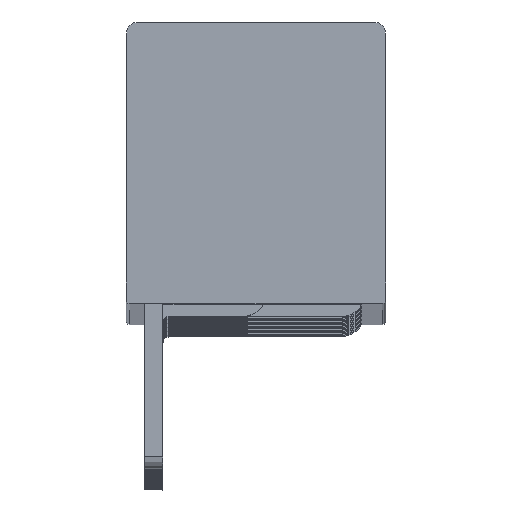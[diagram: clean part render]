
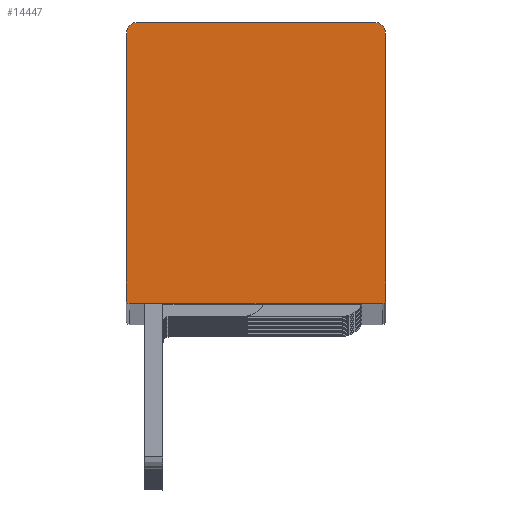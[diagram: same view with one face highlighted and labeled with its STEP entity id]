
A CAD part, top view. The second image highlights one B-rep face of the part: STEP entity #14447.
In plain terms, the highlighted planar face has unit normal (0, 0, 1).
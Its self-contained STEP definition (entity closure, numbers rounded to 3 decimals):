
#14372=CARTESIAN_POINT('',(680.402,617.789,-18.0));
#14373=DIRECTION('',(0.0,0.0,1.0));
#14374=DIRECTION('',(1.0,0.0,0.0));
#14375=AXIS2_PLACEMENT_3D('',#14372,#14373,#14374);
#14376=PLANE('',#14375);
#14377=CARTESIAN_POINT('',(690.702,604.641,-18.0));
#14378=VERTEX_POINT('',#14377);
#14379=CARTESIAN_POINT('',(670.102,604.641,-18.0));
#14380=VERTEX_POINT('',#14379);
#14381=CARTESIAN_POINT('',(690.702,604.641,-18.0));
#14382=DIRECTION('',(-1.0,0.,0.0));
#14383=VECTOR('',#14382,20.6);
#14384=LINE('',#14381,#14383);
#14385=EDGE_CURVE('',#14378,#14380,#14384,.T.);
#14386=ORIENTED_EDGE('',*,*,#14385,.F.);
#14387=CARTESIAN_POINT('',(691.002,604.941,-18.0));
#14388=VERTEX_POINT('',#14387);
#14389=CARTESIAN_POINT('',(690.702,604.941,-18.0));
#14390=DIRECTION('',(0.0,0.0,-1.0));
#14391=DIRECTION('',(0.707,-0.707,0.0));
#14392=AXIS2_PLACEMENT_3D('',#14389,#14390,#14391);
#14393=CIRCLE('',#14392,0.3);
#14394=EDGE_CURVE('',#14388,#14378,#14393,.T.);
#14395=ORIENTED_EDGE('',*,*,#14394,.F.);
#14396=CARTESIAN_POINT('',(691.002,626.641,-18.0));
#14397=VERTEX_POINT('',#14396);
#14398=CARTESIAN_POINT('',(691.002,626.641,-18.0));
#14399=DIRECTION('',(0.,-1.0,0.0));
#14400=VECTOR('',#14399,21.7);
#14401=LINE('',#14398,#14400);
#14402=EDGE_CURVE('',#14397,#14388,#14401,.T.);
#14403=ORIENTED_EDGE('',*,*,#14402,.F.);
#14404=CARTESIAN_POINT('',(690.002,627.641,-18.0));
#14405=VERTEX_POINT('',#14404);
#14406=CARTESIAN_POINT('',(690.002,626.641,-18.0));
#14407=DIRECTION('',(0.0,0.0,-1.0));
#14408=DIRECTION('',(0.707,0.707,0.0));
#14409=AXIS2_PLACEMENT_3D('',#14406,#14407,#14408);
#14410=CIRCLE('',#14409,1.0);
#14411=EDGE_CURVE('',#14405,#14397,#14410,.T.);
#14412=ORIENTED_EDGE('',*,*,#14411,.F.);
#14413=CARTESIAN_POINT('',(670.802,627.641,-18.0));
#14414=VERTEX_POINT('',#14413);
#14415=CARTESIAN_POINT('',(670.802,627.641,-18.0));
#14416=DIRECTION('',(1.0,0.0,0.0));
#14417=VECTOR('',#14416,19.2);
#14418=LINE('',#14415,#14417);
#14419=EDGE_CURVE('',#14414,#14405,#14418,.T.);
#14420=ORIENTED_EDGE('',*,*,#14419,.F.);
#14421=CARTESIAN_POINT('',(669.802,626.641,-18.0));
#14422=VERTEX_POINT('',#14421);
#14423=CARTESIAN_POINT('',(670.802,626.641,-18.0));
#14424=DIRECTION('',(0.0,0.0,-1.0));
#14425=DIRECTION('',(-0.707,0.707,0.0));
#14426=AXIS2_PLACEMENT_3D('',#14423,#14424,#14425);
#14427=CIRCLE('',#14426,1.0);
#14428=EDGE_CURVE('',#14422,#14414,#14427,.T.);
#14429=ORIENTED_EDGE('',*,*,#14428,.F.);
#14430=CARTESIAN_POINT('',(669.802,604.941,-18.0));
#14431=VERTEX_POINT('',#14430);
#14432=CARTESIAN_POINT('',(669.802,604.941,-18.0));
#14433=DIRECTION('',(0.,1.0,0.0));
#14434=VECTOR('',#14433,21.7);
#14435=LINE('',#14432,#14434);
#14436=EDGE_CURVE('',#14431,#14422,#14435,.T.);
#14437=ORIENTED_EDGE('',*,*,#14436,.F.);
#14438=CARTESIAN_POINT('',(670.102,604.941,-18.0));
#14439=DIRECTION('',(0.0,0.0,-1.0));
#14440=DIRECTION('',(-0.707,-0.707,0.0));
#14441=AXIS2_PLACEMENT_3D('',#14438,#14439,#14440);
#14442=CIRCLE('',#14441,0.3);
#14443=EDGE_CURVE('',#14380,#14431,#14442,.T.);
#14444=ORIENTED_EDGE('',*,*,#14443,.F.);
#14445=EDGE_LOOP('',(#14386,#14395,#14403,#14412,#14420,#14429,#14437,#14444));
#14446=FACE_OUTER_BOUND('',#14445,.T.);
#14447=ADVANCED_FACE('',(#14446),#14376,.T.);
